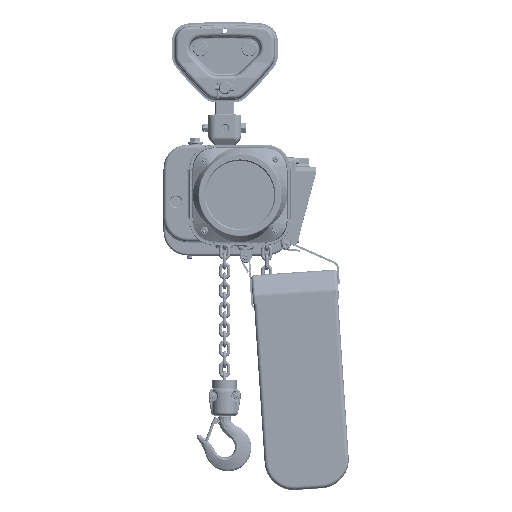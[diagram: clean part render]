
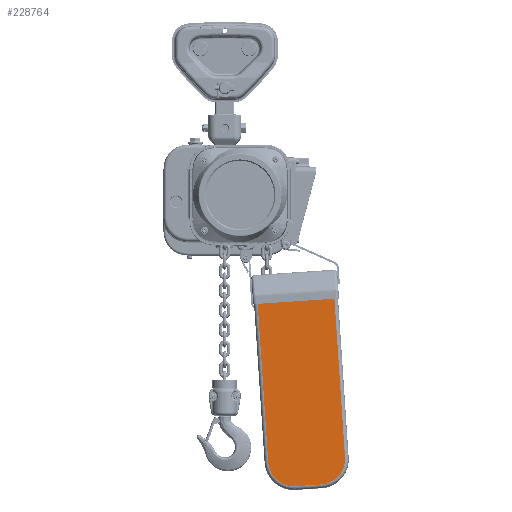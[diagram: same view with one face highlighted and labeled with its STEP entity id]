
A CAD part, top view. The second image highlights one B-rep face of the part: STEP entity #228764.
In plain terms, the highlighted planar face has unit normal (0, 0, 1) as drawn and (1, 0, 0) by its records, which use the part's own axes.
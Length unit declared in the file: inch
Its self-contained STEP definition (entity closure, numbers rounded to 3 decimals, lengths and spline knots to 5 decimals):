
#6883 = CARTESIAN_POINT ( 'NONE',  ( 5.77465, -10.7815, -3.8015 ) ) ;
#10465 = DIRECTION ( 'NONE',  ( 1., 0., 0. ) ) ;
#12008 = CARTESIAN_POINT ( 'NONE',  ( 5.77465, -10.7815, -3.8015 ) ) ;
#17435 = CARTESIAN_POINT ( 'NONE',  ( 5.77465, -10.7815, -0.31 ) ) ;
#21502 = DIRECTION ( 'NONE',  ( 0., 0., -1. ) ) ;
#25835 = VECTOR ( 'NONE', #85617, 39.37008 ) ;
#26147 = CARTESIAN_POINT ( 'NONE',  ( 5.77465, 0.5, -5.52 ) ) ;
#26298 = DIRECTION ( 'NONE',  ( 0., 0., -1. ) ) ;
#28038 = AXIS2_PLACEMENT_3D ( 'NONE', #56379, #206090, #78215 ) ;
#37343 = ORIENTED_EDGE ( 'NONE', *, *, #128766, .T. ) ;
#37570 = EDGE_CURVE ( 'NONE', #99713, #123754, #191819, .T. ) ;
#37634 = VECTOR ( 'NONE', #26298, 39.37008 ) ;
#38491 = AXIS2_PLACEMENT_3D ( 'NONE', #6883, #10465, #178336 ) ;
#47294 = DIRECTION ( 'NONE',  ( 1., 0., 0. ) ) ;
#51473 = LINE ( 'NONE', #127009, #25835 ) ;
#51559 = VECTOR ( 'NONE', #80915, 39.37008 ) ;
#56379 = CARTESIAN_POINT ( 'NONE',  ( 5.77465, -10.7815, -2.0285 ) ) ;
#61182 = ORIENTED_EDGE ( 'NONE', *, *, #123686, .T. ) ;
#70115 = VERTEX_POINT ( 'NONE', #133228 ) ;
#78215 = DIRECTION ( 'NONE',  ( 0., 0., -1. ) ) ;
#80557 = AXIS2_PLACEMENT_3D ( 'NONE', #12008, #47294, #161715 ) ;
#80915 = DIRECTION ( 'NONE',  ( 0., -1., 0. ) ) ;
#85173 = VERTEX_POINT ( 'NONE', #178888 ) ;
#85617 = DIRECTION ( 'NONE',  ( 0., 1., 0. ) ) ;
#89926 = VERTEX_POINT ( 'NONE', #17435 ) ;
#92414 = VERTEX_POINT ( 'NONE', #166645 ) ;
#99076 = EDGE_CURVE ( 'NONE', #85173, #70115, #186986, .T. ) ;
#99336 = CARTESIAN_POINT ( 'NONE',  ( 5.77465, 0.5, -0.06 ) ) ;
#99713 = VERTEX_POINT ( 'NONE', #149652 ) ;
#100809 = ORIENTED_EDGE ( 'NONE', *, *, #99076, .T. ) ;
#106034 = VECTOR ( 'NONE', #21502, 39.37008 ) ;
#109726 = CIRCLE ( 'NONE', #28038, 1.7185 ) ;
#115265 = PLANE ( 'NONE',  #38491 ) ;
#119237 = EDGE_LOOP ( 'NONE', ( #166032, #37343, #124065, #61182, #204607, #100809 ) ) ;
#123686 = EDGE_CURVE ( 'NONE', #99713, #89926, #156367, .T. ) ;
#123754 = VERTEX_POINT ( 'NONE', #26147 ) ;
#124065 = ORIENTED_EDGE ( 'NONE', *, *, #37570, .F. ) ;
#127009 = CARTESIAN_POINT ( 'NONE',  ( 5.77465, 0.5, -5.52 ) ) ;
#128766 = EDGE_CURVE ( 'NONE', #92414, #123754, #51473, .T. ) ;
#129393 = EDGE_CURVE ( 'NONE', #70115, #92414, #212651, .T. ) ;
#133228 = CARTESIAN_POINT ( 'NONE',  ( 5.77465, -12.5, -3.8015 ) ) ;
#149652 = CARTESIAN_POINT ( 'NONE',  ( 5.77465, 0.5, -0.31 ) ) ;
#156367 = LINE ( 'NONE', #211174, #51559 ) ;
#161715 = DIRECTION ( 'NONE',  ( 0., 0., -1. ) ) ;
#166032 = ORIENTED_EDGE ( 'NONE', *, *, #129393, .T. ) ;
#166645 = CARTESIAN_POINT ( 'NONE',  ( 5.77465, -10.7815, -5.52 ) ) ;
#171121 = CARTESIAN_POINT ( 'NONE',  ( 5.77465, -12.5, -3.8015 ) ) ;
#178336 = DIRECTION ( 'NONE',  ( 0., 0., -1. ) ) ;
#178888 = CARTESIAN_POINT ( 'NONE',  ( 5.77465, -12.5, -2.0285 ) ) ;
#186986 = LINE ( 'NONE', #171121, #106034 ) ;
#191819 = LINE ( 'NONE', #99336, #37634 ) ;
#204607 = ORIENTED_EDGE ( 'NONE', *, *, #233326, .T. ) ;
#206090 = DIRECTION ( 'NONE',  ( 1., 0., 0. ) ) ;
#211174 = CARTESIAN_POINT ( 'NONE',  ( 5.77465, -10.7815, -0.31 ) ) ;
#212556 = FACE_OUTER_BOUND ( 'NONE', #119237, .T. ) ;
#212651 = CIRCLE ( 'NONE', #80557, 1.7185 ) ;
#228764 = ADVANCED_FACE ( 'NONE', ( #212556 ), #115265, .T. ) ;
#233326 = EDGE_CURVE ( 'NONE', #89926, #85173, #109726, .T. ) ;
